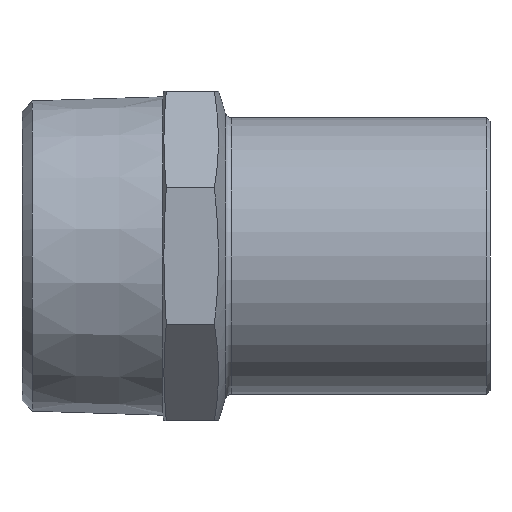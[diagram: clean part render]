
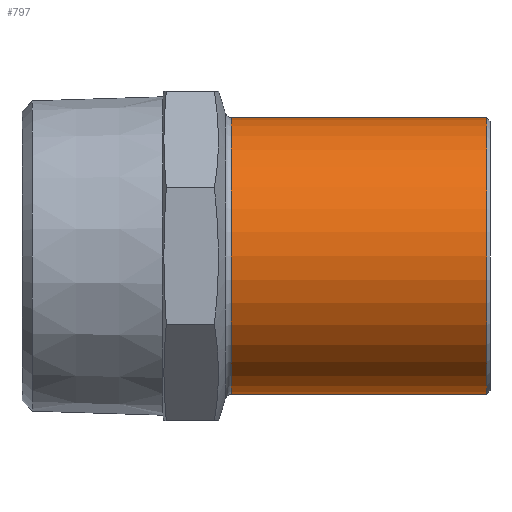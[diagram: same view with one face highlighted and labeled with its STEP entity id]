
A CAD part, left-side view. The second image highlights one B-rep face of the part: STEP entity #797.
In plain terms, the highlighted cylindrical face has radius 21 mm (diameter 42 mm), a partial arc.
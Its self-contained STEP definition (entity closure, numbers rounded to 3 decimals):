
#3 = DIRECTION ( 'NONE',  ( 0., -1., 0. ) ) ;
#14 = ORIENTED_EDGE ( 'NONE', *, *, #887, .T. ) ;
#18 = CARTESIAN_POINT ( 'NONE',  ( 0., -17.811, 0. ) ) ;
#82 = VERTEX_POINT ( 'NONE', #763 ) ;
#99 = CARTESIAN_POINT ( 'NONE',  ( 0., 0.5, -21. ) ) ;
#135 = VECTOR ( 'NONE', #3, 1000. ) ;
#146 = LINE ( 'NONE', #420, #135 ) ;
#160 = ORIENTED_EDGE ( 'NONE', *, *, #1013, .T. ) ;
#176 = AXIS2_PLACEMENT_3D ( 'NONE', #791, #798, #811 ) ;
#185 = CIRCLE ( 'NONE', #908, 21. ) ;
#195 = CARTESIAN_POINT ( 'NONE',  ( 0., -17.811, -21. ) ) ;
#226 = VECTOR ( 'NONE', #255, 1000. ) ;
#255 = DIRECTION ( 'NONE',  ( 0., -1., 0. ) ) ;
#274 = CYLINDRICAL_SURFACE ( 'NONE', #620, 21. ) ;
#298 = DIRECTION ( 'NONE',  ( 0., -1., 0. ) ) ;
#332 = ORIENTED_EDGE ( 'NONE', *, *, #892, .F. ) ;
#347 = LINE ( 'NONE', #195, #226 ) ;
#420 = CARTESIAN_POINT ( 'NONE',  ( 0., -17.811, 21. ) ) ;
#427 = CARTESIAN_POINT ( 'NONE',  ( 0., 39.26, 0. ) ) ;
#477 = CARTESIAN_POINT ( 'NONE',  ( 0., 0.5, 21. ) ) ;
#535 = VERTEX_POINT ( 'NONE', #833 ) ;
#547 = FACE_OUTER_BOUND ( 'NONE', #1085, .T. ) ;
#620 = AXIS2_PLACEMENT_3D ( 'NONE', #18, #630, #872 ) ;
#627 = DIRECTION ( 'NONE',  ( 0., 0., -1. ) ) ;
#630 = DIRECTION ( 'NONE',  ( 0., -1., 0. ) ) ;
#644 = VERTEX_POINT ( 'NONE', #99 ) ;
#654 = ORIENTED_EDGE ( 'NONE', *, *, #680, .F. ) ;
#680 = EDGE_CURVE ( 'NONE', #778, #644, #938, .T. ) ;
#763 = CARTESIAN_POINT ( 'NONE',  ( 0., 39.26, -21. ) ) ;
#778 = VERTEX_POINT ( 'NONE', #477 ) ;
#791 = CARTESIAN_POINT ( 'NONE',  ( 0., 0.5, 0. ) ) ;
#797 = ADVANCED_FACE ( 'NONE', ( #547 ), #274, .T. ) ;
#798 = DIRECTION ( 'NONE',  ( 0., -1., 0. ) ) ;
#811 = DIRECTION ( 'NONE',  ( 0., 0., -1. ) ) ;
#833 = CARTESIAN_POINT ( 'NONE',  ( 0., 39.26, 21. ) ) ;
#872 = DIRECTION ( 'NONE',  ( 0., 0., -1. ) ) ;
#887 = EDGE_CURVE ( 'NONE', #535, #82, #185, .T. ) ;
#892 = EDGE_CURVE ( 'NONE', #535, #778, #146, .T. ) ;
#908 = AXIS2_PLACEMENT_3D ( 'NONE', #427, #298, #627 ) ;
#938 = CIRCLE ( 'NONE', #176, 21. ) ;
#1013 = EDGE_CURVE ( 'NONE', #82, #644, #347, .T. ) ;
#1085 = EDGE_LOOP ( 'NONE', ( #332, #14, #160, #654 ) ) ;
